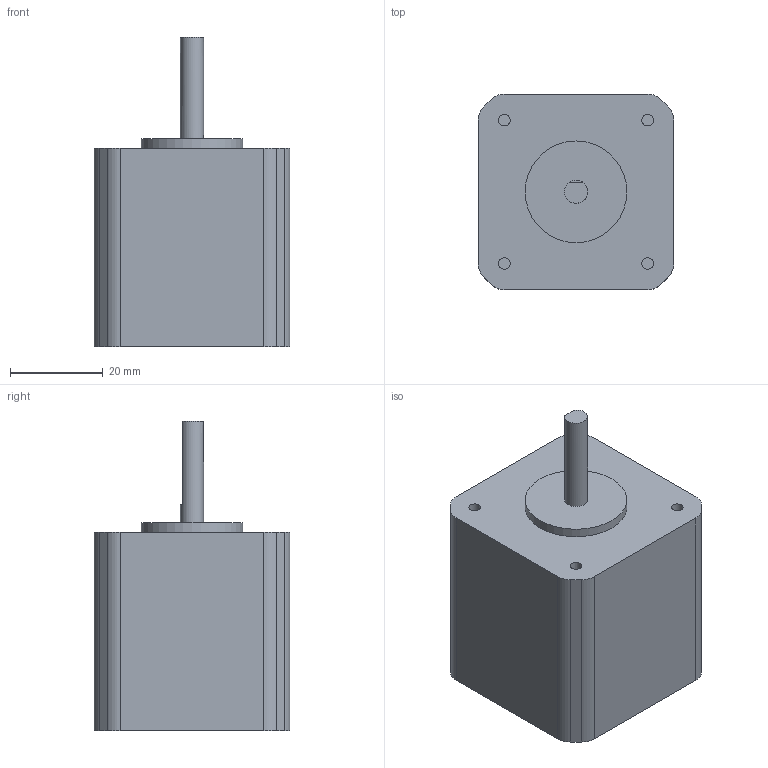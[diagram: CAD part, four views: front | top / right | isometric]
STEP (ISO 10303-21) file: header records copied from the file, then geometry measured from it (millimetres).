
FILE_DESCRIPTION( ( '' ), ' ' );
FILE_NAME( '/vol/tmp/translate-7216040174547681181/5ae2df5795971b0fd0d2c2be.step', '2018-04-27T08:29:13', ( '' ), ( '' ), ' ', ' ', ' ' );
FILE_SCHEMA( ( 'AUTOMOTIVE_DESIGN { 1 0 10303 214 1 1 1 1 }' ) );
Length unit declared in the file: metre
Products named in the file (1): Part 1
Bounding box: 42.3 x 42.3 x 67 mm (x, y, z)
Volume: 76530.5 mm3; surface area: 10943.7 mm2
Topology: 1 solids, 1 shells, 32 faces, 72 edges, 48 vertices
Faces by surface type: plane 18, cylinder 14
Full cylindrical faces by diameter (mm): 2.5 x4, 5 x1, 22 x1
Entity records: 1138 total; most frequent: DIRECTION 160, CARTESIAN_POINT 145, ORIENTED_EDGE 130, EDGE_CURVE 65, AXIS2_PLACEMENT_3D 62, VERTEX_POINT 47, EDGE_LOOP 44, FACE_OUTER_BOUND 38
